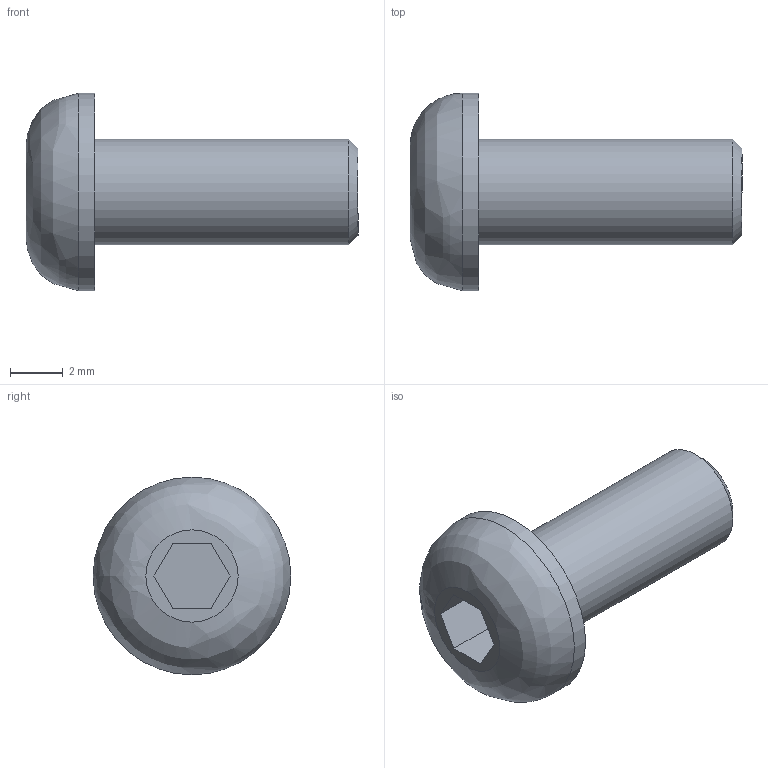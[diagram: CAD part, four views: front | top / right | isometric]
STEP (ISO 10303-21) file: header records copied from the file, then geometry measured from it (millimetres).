
FILE_DESCRIPTION( ( 'STEP AP203' ), '1' );
FILE_NAME( 'C:/BCS-04.stp', '2013-10-20T23:42:31', ( ' ' ), ( ' ' ), 'XStep 1.0', ' ', ' ' );
FILE_SCHEMA( ( 'CONFIG_CONTROL_DESIGN' ) );
Length unit declared in the file: metre
Products named in the file (1): 1
Bounding box: 12.6 x 7.5 x 7.5 mm (x, y, z)
Volume: 210.8 mm3; surface area: 272.7 mm2
Topology: 1 solids, 1 shells, 14 faces, 28 edges, 18 vertices
Faces by surface type: bspline 14
Entity records: 457 total; most frequent: CARTESIAN_POINT 182, ORIENTED_EDGE 48, DIRECTION 28, EDGE_CURVE 24, EDGE_LOOP 20, FACE_OUTER_BOUND 18, VERTEX_POINT 18, ADVANCED_FACE 14
